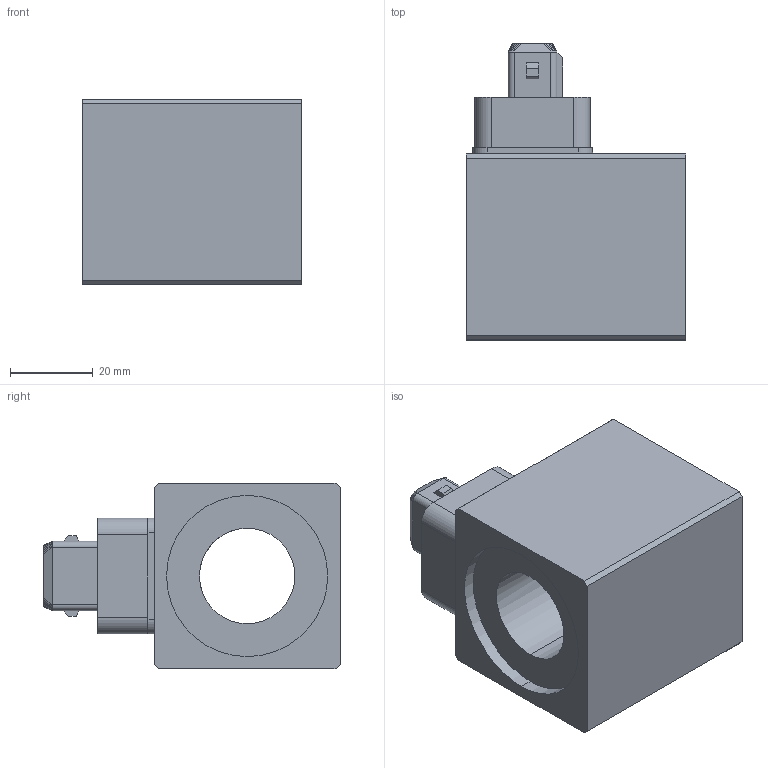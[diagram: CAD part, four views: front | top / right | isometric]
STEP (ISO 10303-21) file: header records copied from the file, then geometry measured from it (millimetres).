
FILE_DESCRIPTION (( 'STEP AP214' ), '1' );
FILE_NAME ('MJS45_23x50.STEP', '2014-07-14T11:28:05', ( '' ), ( '' ), 'SwSTEP 2.0', 'SolidWorks 2014', '' );
FILE_SCHEMA (( 'AUTOMOTIVE_DESIGN' ));
Length unit declared in the file: millimetre
Products named in the file (2): MJS45_23x50
Bounding box: 53 x 71.7 x 45 mm (x, y, z)
Volume: 87720 mm3; surface area: 28102.6 mm2
Topology: 9 solids, 9 shells, 371 faces, 971 edges, 634 vertices
Faces by surface type: plane 261, cylinder 92, cone 14, bspline 4
Entity records: 15726 total; most frequent: CARTESIAN_POINT 2283, ORIENTED_EDGE 1938, DIRECTION 1862, EDGE_CURVE 969, LINE 708, VECTOR 708, VERTEX_POINT 634, AXIS2_PLACEMENT_3D 577
